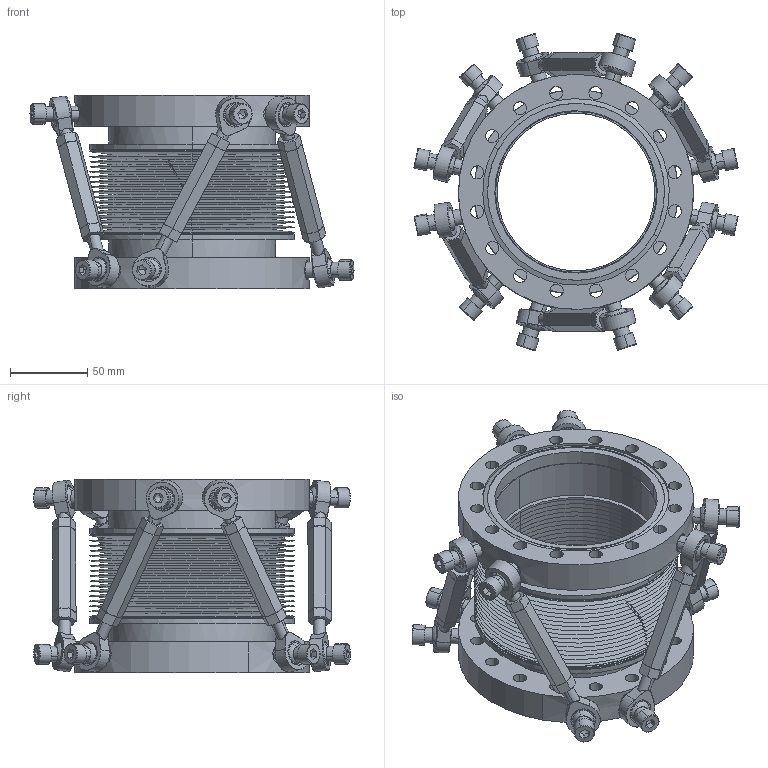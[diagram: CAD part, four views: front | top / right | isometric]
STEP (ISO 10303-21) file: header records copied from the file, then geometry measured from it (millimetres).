
FILE_DESCRIPTION(('Confidential','CAx-IF Rec.Pracs.--- Model Styling and Organization---1.2---2011-12-15'),'2;1');
FILE_NAME('W:\KONSTRUKTION\PRODUCTS\PA\PA100HEX\PA100HEX\PA100HEX.stp','2024-04-23T09:07:11+00:00',('none'),('Ferrovac AG'),'CATIA Version 5 Release 21 SP 6 (IN-10)','CATIA V5 STEP AP214','PROPERTY OF FERROVAC AG');
FILE_SCHEMA(('AUTOMOTIVE_DESIGN { 1 0 10303 214 1 1 1 1 }'));
Length unit declared in the file: millimetre
Products named in the file (1): PA100HEX
Bounding box: 209.46 x 205.01 x 124.9 mm (x, y, z)
Volume: 660701.5 mm3; surface area: 396588.7 mm2
Topology: 1 solids, 33 shells, 1646 faces, 3881 edges, 2419 vertices
Faces by surface type: plane 542, cylinder 538, cone 340, torus 100, sphere 96, bspline 30
Entity records: 50739 total; most frequent: CARTESIAN_POINT 16961, ORIENTED_EDGE 7682, DIRECTION 5061, EDGE_CURVE 3841, AXIS2_PLACEMENT_3D 2696, VERTEX_POINT 2419, EDGE_LOOP 1906, ADVANCED_FACE 1646
